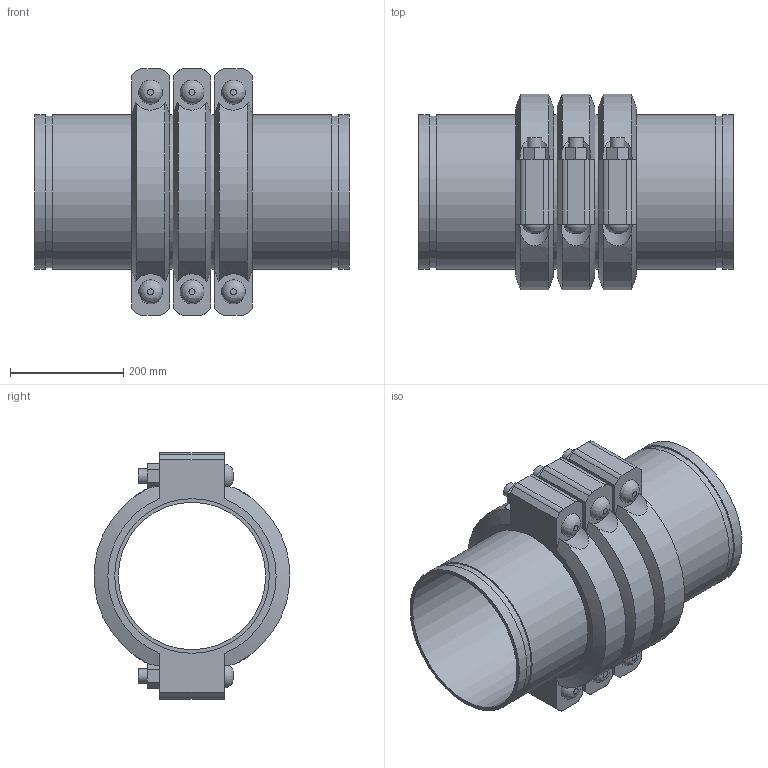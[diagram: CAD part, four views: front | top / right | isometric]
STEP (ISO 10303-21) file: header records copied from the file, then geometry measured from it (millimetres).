
FILE_DESCRIPTION(/* description */ ('VIC SS EXPANSION JOINT 3 COUPLINGS NEUTRAL STYLE 155P (OGS) (POTABLE WATER) ','CAx-IF Rec.Pracs.---Representation and Presentation of Product Manufacturing Information (PMI)---4.0---2014-10-13'),/* implementation_level */ '2;1');
FILE_NAME(/* name */ 'C:\Users\kkamble\AppData\Roaming\Autodesk\ApplicationPlugins\Victaulic.Temp\A227\Victaulic_SS_Expansion Joint_Neutral_3 Couplings_Style 155P (OGS)-Potable Water_3 Coup_Neut_10 (250).stp',/* time_stamp */ '2021-07-16T16:32:33+05:00',/* author */ ('kkamble'),/* organization */ ('Victaulic'),/* preprocessor_version */ 'ST-DEVELOPER v17.2',/* originating_system */ 'Autodesk Inventor 2019',/* authorisation */ '');
FILE_SCHEMA (('AP242_MANAGED_MODEL_BASED_3D_ENGINEERING_MIM_LF { 1 0 10303 442 1 1 4 }'));
Length unit declared in the file: inch
Products named in the file (4): 155P-10.0; Nipple-10.0; Nipple-10.0_1; 077-10.0
Assembly tree (7 placements, depth 2):
  155P-10.0
    Nipple-10.0  x2
    Nipple-10.0_1  x2
    077-10.0  x3
Bounding box: 555.75 x 344.9 x 435.1 mm (x, y, z)
Volume: 11501877.6 mm3; surface area: 1829249.9 mm2
Topology: 7 solids, 13 shells, 231 faces, 555 edges, 390 vertices
Faces by surface type: plane 132, cylinder 81, cone 12, bspline 6
Full cylindrical faces by diameter (mm): 25.4 x12, 27.432 x6, 260.35 x4, 264.16 x3, 268.275 x8, 273.05 x18
Entity records: 3041 total; most frequent: CARTESIAN_POINT 671, DIRECTION 469, ORIENTED_EDGE 410, EDGE_CURVE 205, AXIS2_PLACEMENT_3D 190, VERTEX_POINT 146, EDGE_LOOP 111, CIRCLE 96
